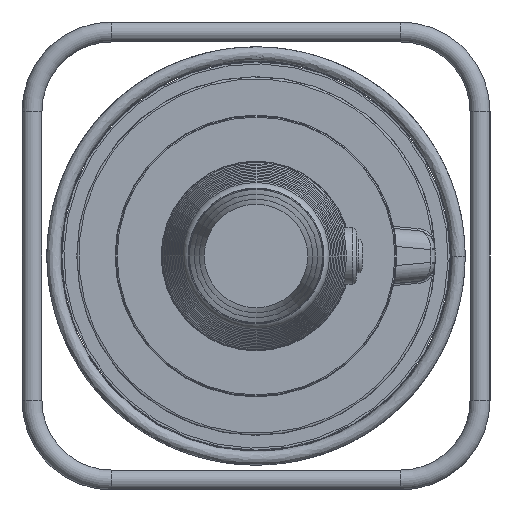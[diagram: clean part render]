
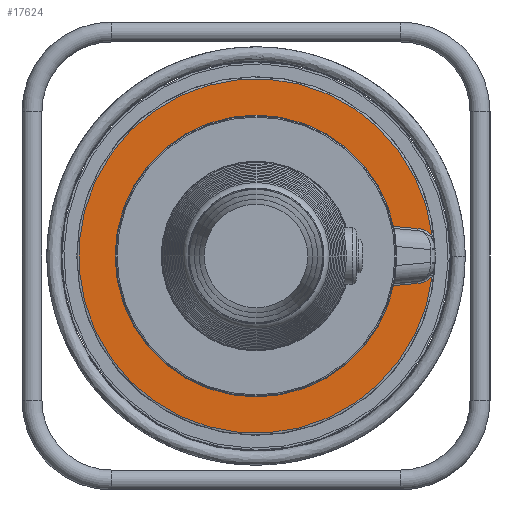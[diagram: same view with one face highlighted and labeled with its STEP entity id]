
A CAD part, left-side view. The second image highlights one B-rep face of the part: STEP entity #17624.
In plain terms, the highlighted planar face has unit normal (-1, 0, 0).
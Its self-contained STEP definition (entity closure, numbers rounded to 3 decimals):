
#1573=PLANE('',#18733);
#2566=LINE('',#39113,#3537);
#2568=LINE('',#39137,#3539);
#3537=VECTOR('',#21828,10.);
#3539=VECTOR('',#21858,10.);
#4505=FACE_OUTER_BOUND('',#5594,.T.);
#5594=EDGE_LOOP('',(#15083,#15084,#15085,#15086,#15087,#15088,#15089,#15090));
#6160=CIRCLE('',#18659,21.);
#6164=CIRCLE('',#18665,8.);
#6167=CIRCLE('',#18669,113.);
#6170=CIRCLE('',#18673,8.);
#6174=CIRCLE('',#18679,21.);
#6180=CIRCLE('',#18697,178.);
#7981=VERTEX_POINT('',#39080);
#7984=VERTEX_POINT('',#39105);
#7986=VERTEX_POINT('',#39111);
#7988=VERTEX_POINT('',#39117);
#7990=VERTEX_POINT('',#39123);
#7992=VERTEX_POINT('',#39129);
#7994=VERTEX_POINT('',#39135);
#7996=VERTEX_POINT('',#39141);
#10325=EDGE_CURVE('',#7984,#7981,#6160,.T.);
#10328=EDGE_CURVE('',#7986,#7984,#2566,.T.);
#10331=EDGE_CURVE('',#7988,#7986,#6164,.T.);
#10334=EDGE_CURVE('',#7990,#7988,#6167,.T.);
#10337=EDGE_CURVE('',#7992,#7990,#6170,.T.);
#10340=EDGE_CURVE('',#7994,#7992,#2568,.T.);
#10343=EDGE_CURVE('',#7996,#7994,#6174,.T.);
#10367=EDGE_CURVE('',#7981,#7996,#6180,.T.);
#15083=ORIENTED_EDGE('',*,*,#10343,.F.);
#15084=ORIENTED_EDGE('',*,*,#10367,.F.);
#15085=ORIENTED_EDGE('',*,*,#10325,.F.);
#15086=ORIENTED_EDGE('',*,*,#10328,.F.);
#15087=ORIENTED_EDGE('',*,*,#10331,.F.);
#15088=ORIENTED_EDGE('',*,*,#10334,.F.);
#15089=ORIENTED_EDGE('',*,*,#10337,.F.);
#15090=ORIENTED_EDGE('',*,*,#10340,.F.);
#17624=ADVANCED_FACE('',(#4505),#1573,.T.);
#18659=AXIS2_PLACEMENT_3D('',#39107,#21820,#21821);
#18665=AXIS2_PLACEMENT_3D('',#39119,#21834,#21835);
#18669=AXIS2_PLACEMENT_3D('',#39125,#21842,#21843);
#18673=AXIS2_PLACEMENT_3D('',#39131,#21850,#21851);
#18679=AXIS2_PLACEMENT_3D('',#39143,#21864,#21865);
#18697=AXIS2_PLACEMENT_3D('',#39278,#21910,#21911);
#18733=AXIS2_PLACEMENT_3D('',#39906,#21986,#21987);
#21820=DIRECTION('center_axis',(-1.,0.,0.));
#21821=DIRECTION('ref_axis',(0.,-0.535,-0.845));
#21828=DIRECTION('',(0.,-0.996,0.087));
#21834=DIRECTION('center_axis',(1.,0.,0.));
#21835=DIRECTION('ref_axis',(0.,0.614,0.789));
#21842=DIRECTION('center_axis',(-1.,0.,0.));
#21843=DIRECTION('ref_axis',(0.,1.,0.));
#21850=DIRECTION('center_axis',(1.,0.,0.));
#21851=DIRECTION('ref_axis',(0.,0.614,-0.789));
#21858=DIRECTION('',(0.,0.996,0.087));
#21864=DIRECTION('center_axis',(-1.,0.,0.));
#21865=DIRECTION('ref_axis',(0.,-0.535,0.845));
#21910=DIRECTION('center_axis',(1.,0.,0.));
#21911=DIRECTION('ref_axis',(0.,1.,0.));
#21986=DIRECTION('center_axis',(-1.,0.,0.));
#21987=DIRECTION('ref_axis',(0.,0.,-1.));
#39080=CARTESIAN_POINT('',(-155.,-176.847,-20.223));
#39105=CARTESIAN_POINT('',(-155.,-162.695,-27.522));
#39107=CARTESIAN_POINT('Origin',(-155.,-160.865,-6.602));
#39111=CARTESIAN_POINT('',(-155.,-113.574,-31.819));
#39113=CARTESIAN_POINT('',(-155.,20.898,-43.584));
#39117=CARTESIAN_POINT('',(-155.,-106.716,-37.158));
#39119=CARTESIAN_POINT('Origin',(-155.,-114.271,-39.789));
#39123=CARTESIAN_POINT('',(-155.,-106.716,37.158));
#39125=CARTESIAN_POINT('Origin',(-155.,0.,
0.));
#39129=CARTESIAN_POINT('',(-155.,-113.574,31.819));
#39131=CARTESIAN_POINT('Origin',(-155.,-114.271,39.789));
#39135=CARTESIAN_POINT('',(-155.,-162.695,27.522));
#39137=CARTESIAN_POINT('',(-155.,20.898,43.584));
#39141=CARTESIAN_POINT('',(-155.,-176.847,20.223));
#39143=CARTESIAN_POINT('Origin',(-155.,-160.865,6.602));
#39278=CARTESIAN_POINT('Origin',(-155.,0.,
0.));
#39906=CARTESIAN_POINT('Origin',(-155.,179.,0.));
